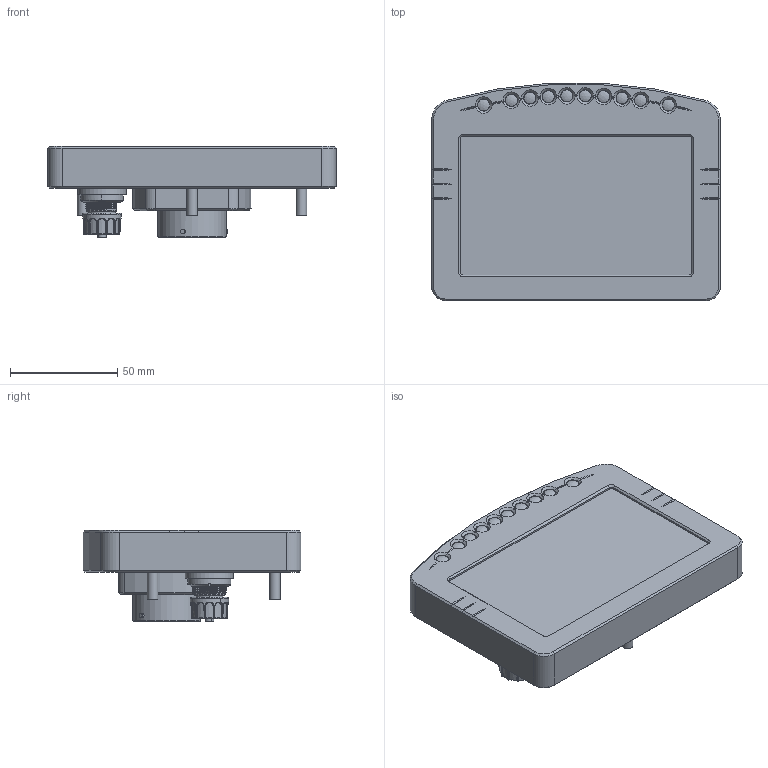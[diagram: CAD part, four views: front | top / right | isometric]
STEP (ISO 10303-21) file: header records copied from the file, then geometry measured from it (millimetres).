
FILE_DESCRIPTION(/* description */ ('Alibre Inc.'),/* implementation_level */ '2;1');
FILE_NAME(/* name */ 'export2',/* time_stamp */ '2018-02-20T08:46:45+11:00',/* author */ (''),/* organization */ (''),/* preprocessor_version */ 'ST-DEVELOPER v14',/* originating_system */ 'Alibre',/* authorisation */ '');
FILE_SCHEMA (('CONFIG_CONTROL_DESIGN'));
Length unit declared in the file: centimetre
Products named in the file (7): ID_1; ID_2; ID_3; ID_4; ID_5; ID_6; ID_7
Bounding box: 134.5 x 101.46 x 42.5 mm (x, y, z)
Volume: 258466.3 mm3; surface area: 56640.2 mm2
Topology: 37 solids, 37 shells, 2177 faces, 7934 edges, 5913 vertices
Faces by surface type: plane 1145, cylinder 614, cone 182, bspline 153, torus 36, sphere 24, revolution 23
Full cylindrical faces by diameter (mm): 0.8 x79, 2 x3, 3.2 x2, 4.2 x10, 5 x3, 5.85 x10, 22.5 x1, 31.75 x1
Entity records: 110546 total; most frequent: CARTESIAN_POINT 50922, ORIENTED_EDGE 13574, DIRECTION 11282, EDGE_CURVE 6787, VERTEX_POINT 5284, AXIS2_PLACEMENT_3D 4754, CIRCLE 3152, VECTOR 2690
